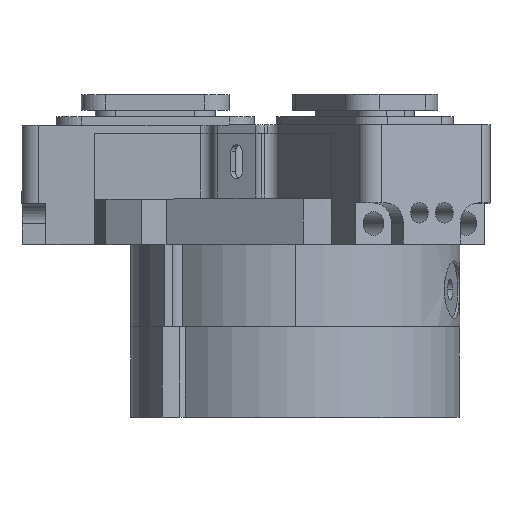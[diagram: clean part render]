
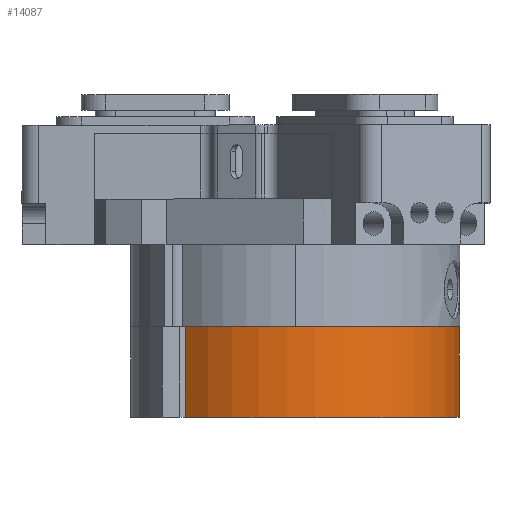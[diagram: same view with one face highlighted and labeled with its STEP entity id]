
A CAD part, top view. The second image highlights one B-rep face of the part: STEP entity #14087.
In plain terms, the highlighted cylindrical face has radius 20 mm (diameter 40 mm), a partial arc.
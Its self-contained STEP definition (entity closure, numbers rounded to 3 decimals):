
#255 = EDGE_CURVE ( 'NONE', #22540, #1531, #3145, .T. ) ;
#732 = DIRECTION ( 'NONE',  ( 0., -1., 0. ) ) ;
#1030 = CARTESIAN_POINT ( 'NONE',  ( -14.869, 11., -13.376 ) ) ;
#1336 = EDGE_CURVE ( 'NONE', #1531, #9497, #18880, .T. ) ;
#1385 = ORIENTED_EDGE ( 'NONE', *, *, #1336, .T. ) ;
#1531 = VERTEX_POINT ( 'NONE', #13392 ) ;
#1542 = ORIENTED_EDGE ( 'NONE', *, *, #255, .T. ) ;
#2356 = CARTESIAN_POINT ( 'NONE',  ( 14.903, 11., -13.338 ) ) ;
#3101 = VECTOR ( 'NONE', #9229, 1000. ) ;
#3115 = AXIS2_PLACEMENT_3D ( 'NONE', #21878, #5817, #4183 ) ;
#3145 = CIRCLE ( 'NONE', #12968, 20. ) ;
#4183 = DIRECTION ( 'NONE',  ( 0., 0., -1. ) ) ;
#5105 = CIRCLE ( 'NONE', #3115, 20. ) ;
#5810 = DIRECTION ( 'NONE',  ( 0., 0., -1. ) ) ;
#5817 = DIRECTION ( 'NONE',  ( 0., 1., 0. ) ) ;
#7060 = CARTESIAN_POINT ( 'NONE',  ( 14.903, 23., -13.338 ) ) ;
#8162 = CARTESIAN_POINT ( 'NONE',  ( 0., 0., 0. ) ) ;
#9229 = DIRECTION ( 'NONE',  ( 0., 1., 0. ) ) ;
#9497 = VERTEX_POINT ( 'NONE', #2356 ) ;
#11077 = FACE_OUTER_BOUND ( 'NONE', #25215, .T. ) ;
#11705 = DIRECTION ( 'NONE',  ( 0., -1., 0. ) ) ;
#12968 = AXIS2_PLACEMENT_3D ( 'NONE', #8162, #23864, #20171 ) ;
#13392 = CARTESIAN_POINT ( 'NONE',  ( 14.903, 0., -13.338 ) ) ;
#14087 = ADVANCED_FACE ( 'NONE', ( #11077 ), #19709, .T. ) ;
#15443 = EDGE_CURVE ( 'NONE', #21488, #22540, #24829, .T. ) ;
#16662 = CARTESIAN_POINT ( 'NONE',  ( -14.869, 11., -13.376 ) ) ;
#18880 = LINE ( 'NONE', #7060, #3101 ) ;
#19709 = CYLINDRICAL_SURFACE ( 'NONE', #23831, 20. ) ;
#20171 = DIRECTION ( 'NONE',  ( 0., 0., -1. ) ) ;
#20575 = ORIENTED_EDGE ( 'NONE', *, *, #15443, .T. ) ;
#20687 = EDGE_CURVE ( 'NONE', #21488, #9497, #5105, .T. ) ;
#21488 = VERTEX_POINT ( 'NONE', #1030 ) ;
#21878 = CARTESIAN_POINT ( 'NONE',  ( 0., 11., 0. ) ) ;
#22244 = ORIENTED_EDGE ( 'NONE', *, *, #20687, .F. ) ;
#22540 = VERTEX_POINT ( 'NONE', #22561 ) ;
#22561 = CARTESIAN_POINT ( 'NONE',  ( -14.869, 0., -13.376 ) ) ;
#22699 = VECTOR ( 'NONE', #732, 1000. ) ;
#23831 = AXIS2_PLACEMENT_3D ( 'NONE', #25380, #11705, #5810 ) ;
#23864 = DIRECTION ( 'NONE',  ( 0., 1., 0. ) ) ;
#24829 = LINE ( 'NONE', #16662, #22699 ) ;
#25215 = EDGE_LOOP ( 'NONE', ( #1542, #1385, #22244, #20575 ) ) ;
#25380 = CARTESIAN_POINT ( 'NONE',  ( 0., 11., 0. ) ) ;
